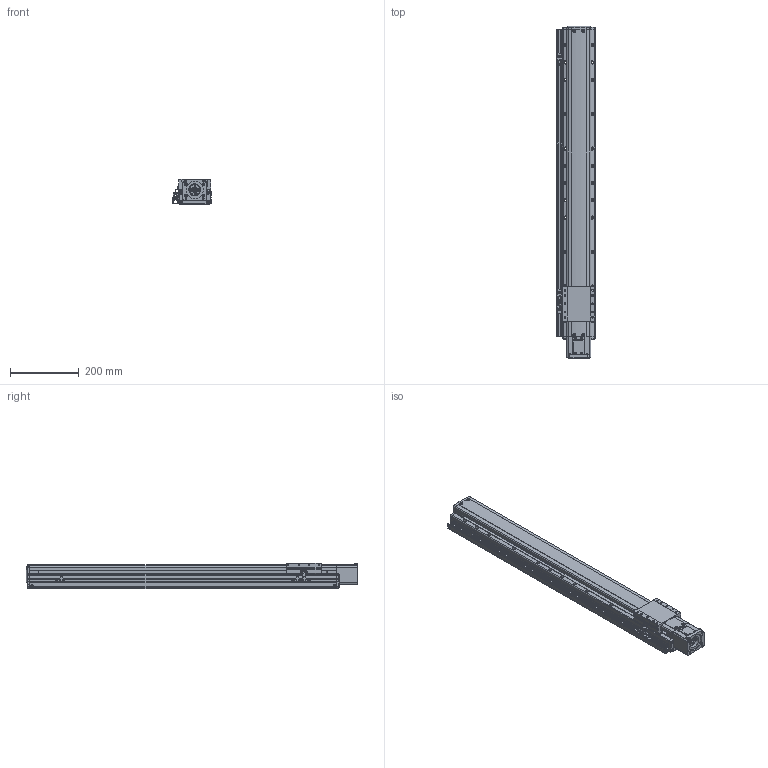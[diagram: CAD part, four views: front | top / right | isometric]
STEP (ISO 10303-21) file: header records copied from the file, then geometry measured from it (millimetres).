
FILE_DESCRIPTION(('STEP AP214'),'1');
FILE_NAME('Z:/Web/3D/PSA95/STP/PSA95-700 (3D)/PSA95ㅁㅁ-700S+3SL.stp','2014-07-03T00:41:46',(' '),(' '),'Spatial InterOp 3D',' ',' ');
FILE_SCHEMA(('automotive_design'));
Length unit declared in the file: millimetre
Products named in the file (53): BASE; RRCV; 스크루 : Round - M4.0 x 10.0; 너트 : Square - M10.0 x 220.7419; RR1500; FRCV-090; 스크루 : Round - M4.0 x 6.0; SLBL-PA90; SSFX-SAN65; CPLCV-SAN65; 스크루 : Round - M3.0 x 6.0; MTHZ-PA70/90-S60A-3; 스크루 : Socket - M4.0 x 20.0; NONE; EE-SX674; SBK-SX674-352; M3.0 x 6.0; SRL-16x17-380L; SGD-PA95; 스크루 : Round - M3.0 x 8.0
Bounding box: 111 x 962.5 x 74 mm (x, y, z)
Volume: 5127852.8 mm3; surface area: 652384.3 mm2
Topology: 53 solids, 87 shells, 3616 faces, 9300 edges, 5896 vertices
Faces by surface type: plane 1819, cylinder 1118, cone 423, torus 158, sphere 66, bspline 32
Entity records: 142618 total; most frequent: CARTESIAN_POINT 23066, DIRECTION 19444, ORIENTED_EDGE 18280, EDGE_CURVE 9140, AXIS2_PLACEMENT_3D 6916, VERTEX_POINT 5896, LINE 5612, VECTOR 5612
